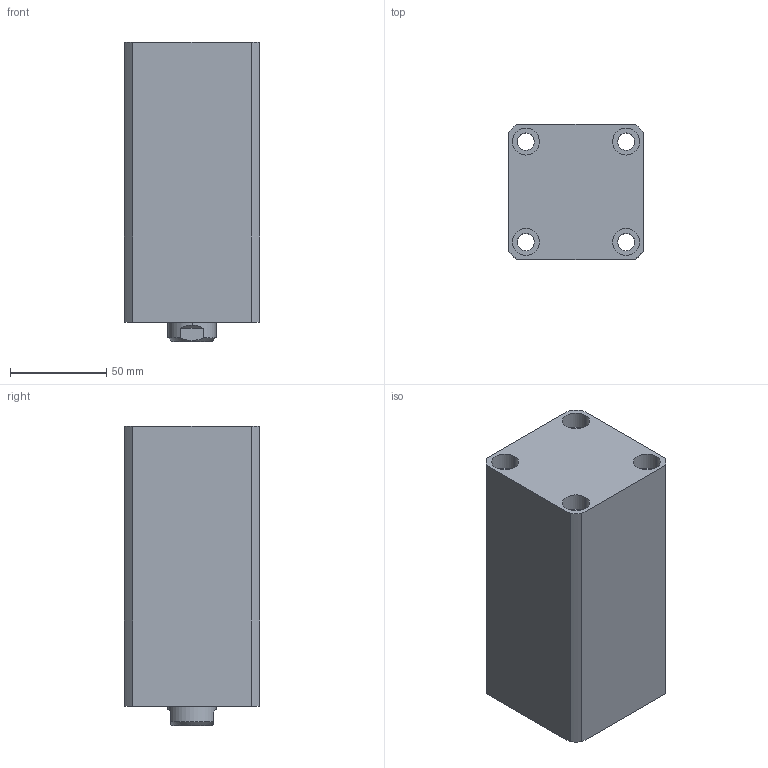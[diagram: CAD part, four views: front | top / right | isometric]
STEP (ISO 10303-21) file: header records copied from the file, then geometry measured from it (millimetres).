
FILE_DESCRIPTION (( 'STEP AP214' ), '1' );
FILE_NAME ('chtb-sd40x90n_asm.STEP', '2018-06-07T08:01:39', ( 'Windows' ), ( 'Microsoft' ), 'SwSTEP 2.0', 'SolidWorks 2015', '' );
FILE_SCHEMA (( 'AUTOMOTIVE_DESIGN' ));
Length unit declared in the file: millimetre
Products named in the file (4): CHTB-SD40QG; CHTB-SD40X90NHSG; CHTB-SD40X90NBT; chtb-sd40x90n_asm
Assembly tree (3 placements, depth 2):
  chtb-sd40x90n_asm
    CHTB-SD40X90NBT
    CHTB-SD40X90NHSG
    CHTB-SD40QG
Bounding box: 70 x 70 x 155 mm (x, y, z)
Volume: 584370.1 mm3; surface area: 112790.7 mm2
Topology: 3 solids, 3 shells, 157 faces, 401 edges, 266 vertices
Faces by surface type: cylinder 80, plane 36, torus 14, bspline 14, cone 13
Entity records: 9977 total; most frequent: CARTESIAN_POINT 6053, ORIENTED_EDGE 790, DIRECTION 768, EDGE_CURVE 395, AXIS2_PLACEMENT_3D 328, VERTEX_POINT 266, EDGE_LOOP 193, CIRCLE 179
